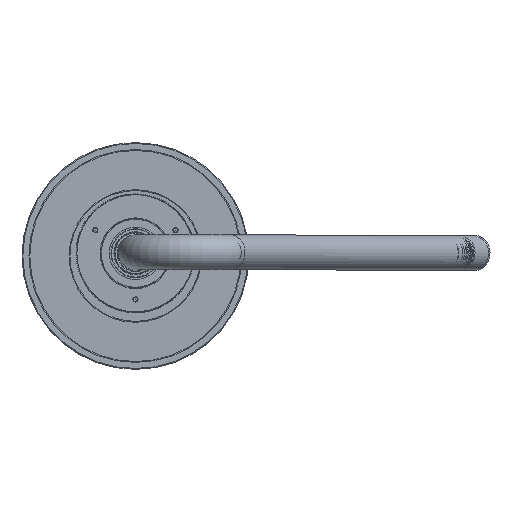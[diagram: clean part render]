
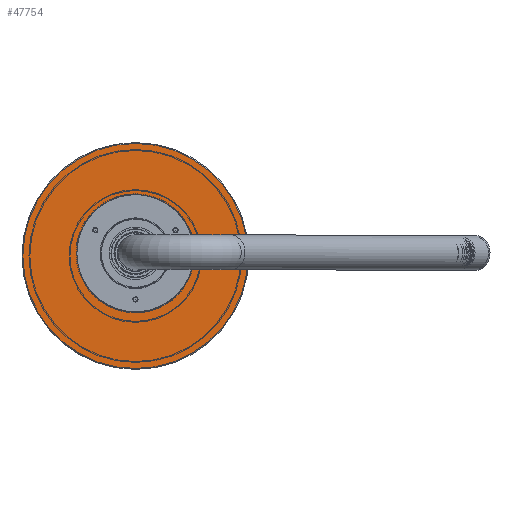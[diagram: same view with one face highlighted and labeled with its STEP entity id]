
A CAD part, top view. The second image highlights one B-rep face of the part: STEP entity #47754.
In plain terms, the highlighted planar face has unit normal (0, 0, 1).
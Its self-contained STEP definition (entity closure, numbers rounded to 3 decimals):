
#8233=PLANE('',#61711);
#9315=ORIENTED_EDGE('',*,*,#24089,.T.);
#9316=ORIENTED_EDGE('',*,*,#24090,.T.);
#24089=EDGE_CURVE('',#31476,#31476,#36032,.T.);
#24090=EDGE_CURVE('',#31477,#31477,#36033,.F.);
#31476=VERTEX_POINT('',#83940);
#31477=VERTEX_POINT('',#83942);
#36032=CIRCLE('',#61712,31.);
#36033=CIRCLE('',#61713,64.5);
#39313=EDGE_LOOP('',(#9315));
#39314=EDGE_LOOP('',(#9316));
#43073=FACE_BOUND('',#39313,.T.);
#43074=FACE_BOUND('',#39314,.T.);
#47754=ADVANCED_FACE('',(#43073,#43074),#8233,.F.);
#61711=AXIS2_PLACEMENT_3D('',#83938,#68276,#68277);
#61712=AXIS2_PLACEMENT_3D('',#83939,#68278,#68279);
#61713=AXIS2_PLACEMENT_3D('',#83941,#68280,#68281);
#68276=DIRECTION('',(0.,0.,-1.));
#68277=DIRECTION('',(-1.,0.,0.));
#68278=DIRECTION('',(0.,0.,-1.));
#68279=DIRECTION('',(-1.,0.,0.));
#68280=DIRECTION('',(0.,0.,-1.));
#68281=DIRECTION('',(-1.,0.,0.));
#83938=CARTESIAN_POINT('',(0.,0.,13.));
#83939=CARTESIAN_POINT('',(0.,0.,13.));
#83940=CARTESIAN_POINT('',(-31.,0.,13.));
#83941=CARTESIAN_POINT('',(0.,0.,13.));
#83942=CARTESIAN_POINT('',(-64.5,0.,13.));
